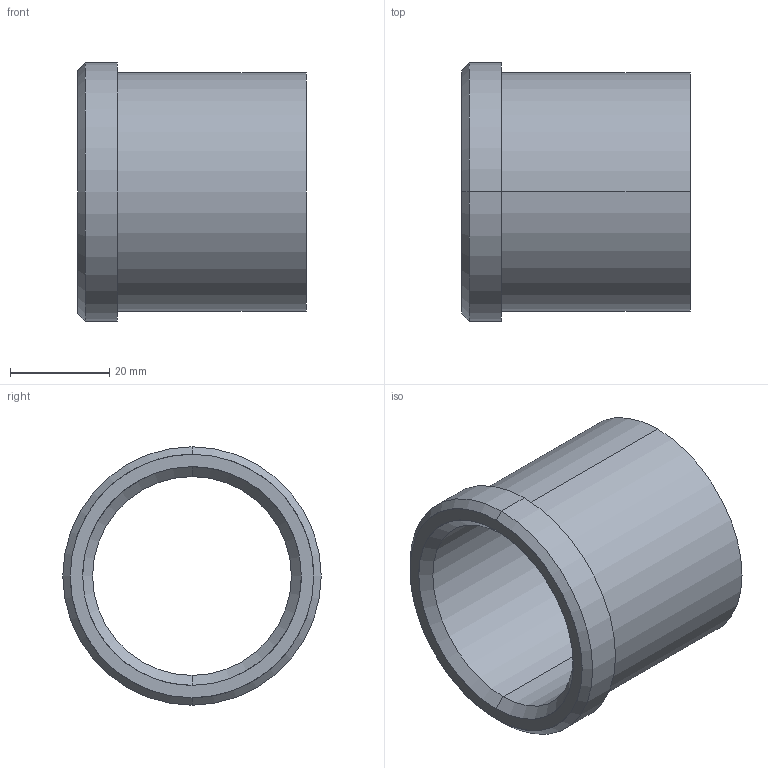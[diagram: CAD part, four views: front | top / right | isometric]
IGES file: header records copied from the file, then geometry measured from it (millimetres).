
Start section: START RECORD GO HERE.
Global section: file name: 353-40X46.igs; native system: DASSAULT SYSTEMES CATIA V5 R20 - www.3ds.com; preprocessor: CATIA Version 5 Release 20 ; author: Utente; organization: NB04-ASUS; date: 20210513.202705; units: millimetre
Bounding box: 46 x 52 x 52 mm (x, y, z)
Surface area: 14157.3 mm2 (no closed solid volume)
Topology: 0 solids, 0 shells, 15 faces, 96 edges, 96 vertices
Faces by surface type: revolution 12, plane 3
